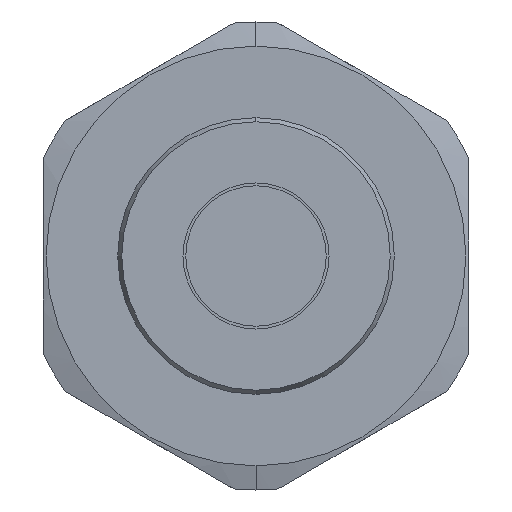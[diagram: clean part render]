
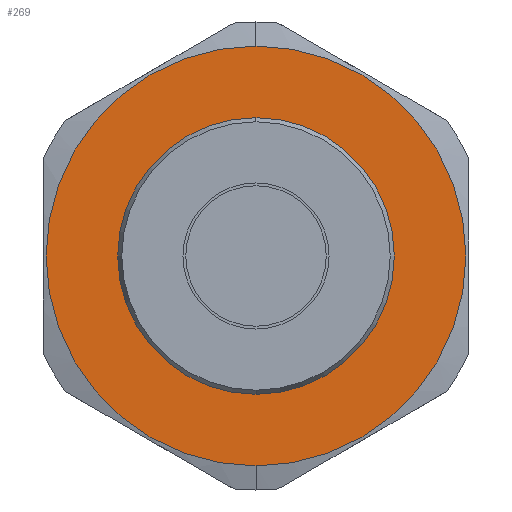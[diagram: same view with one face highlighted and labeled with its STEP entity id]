
A CAD part, front view. The second image highlights one B-rep face of the part: STEP entity #269.
In plain terms, the highlighted planar face has unit normal (0, -1, 0).
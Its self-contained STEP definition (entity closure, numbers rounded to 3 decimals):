
#38 = VERTEX_POINT ( 'NONE', #635 ) ;
#41 = VERTEX_POINT ( 'NONE', #693 ) ;
#44 = EDGE_CURVE ( 'NONE', #41, #38, #692, .T. ) ;
#53 = VERTEX_POINT ( 'NONE', #674 ) ;
#269 = ADVANCED_FACE ( 'NONE', ( #1073, #1072 ), #1129, .T. ) ;
#270 = ORIENTED_EDGE ( 'NONE', *, *, #2286, .T. ) ;
#271 = ORIENTED_EDGE ( 'NONE', *, *, #272, .T. ) ;
#272 = EDGE_CURVE ( 'NONE', #53, #2284, #1128, .T. ) ;
#273 = EDGE_LOOP ( 'NONE', ( #274, #275 ) ) ;
#274 = ORIENTED_EDGE ( 'NONE', *, *, #44, .F. ) ;
#275 = ORIENTED_EDGE ( 'NONE', *, *, #2365, .F. ) ;
#295 = EDGE_LOOP ( 'NONE', ( #270, #271 ) ) ;
#635 = CARTESIAN_POINT ( 'NONE',  ( 0., 15., -14.8 ) ) ;
#674 = CARTESIAN_POINT ( 'NONE',  ( 0., 15., -9.75 ) ) ;
#688 = DIRECTION ( 'NONE',  ( 0., 0., 1. ) ) ;
#689 = DIRECTION ( 'NONE',  ( 0., 1., 0. ) ) ;
#690 = CARTESIAN_POINT ( 'NONE',  ( 0., 15., 0. ) ) ;
#691 = AXIS2_PLACEMENT_3D ( 'NONE', #690, #689, #688 ) ;
#692 = CIRCLE ( 'NONE', #691, 14.8 ) ;
#693 = CARTESIAN_POINT ( 'NONE',  ( 0., 15., 14.8 ) ) ;
#1072 = FACE_OUTER_BOUND ( 'NONE', #273, .T. ) ;
#1073 = FACE_BOUND ( 'NONE', #295, .T. ) ;
#1120 = DIRECTION ( 'NONE',  ( 0., 0., 1. ) ) ;
#1121 = DIRECTION ( 'NONE',  ( 0., 1., 0. ) ) ;
#1122 = CARTESIAN_POINT ( 'NONE',  ( 0., 15., 0. ) ) ;
#1123 = AXIS2_PLACEMENT_3D ( 'NONE', #1122, #1121, #1120 ) ;
#1124 = DIRECTION ( 'NONE',  ( 0., 0., -1. ) ) ;
#1125 = DIRECTION ( 'NONE',  ( 0., -1., 0. ) ) ;
#1126 = CARTESIAN_POINT ( 'NONE',  ( 0., 15., 14.8 ) ) ;
#1127 = AXIS2_PLACEMENT_3D ( 'NONE', #1126, #1125, #1124 ) ;
#1128 = CIRCLE ( 'NONE', #1123, 9.75 ) ;
#1129 = PLANE ( 'NONE',  #1127 ) ;
#1651 = DIRECTION ( 'NONE',  ( 0., 0., 1. ) ) ;
#1652 = DIRECTION ( 'NONE',  ( 0., 1., 0. ) ) ;
#1653 = CARTESIAN_POINT ( 'NONE',  ( 0., 15., 0. ) ) ;
#1654 = AXIS2_PLACEMENT_3D ( 'NONE', #1653, #1652, #1651 ) ;
#1655 = CIRCLE ( 'NONE', #1654, 9.75 ) ;
#1659 = CARTESIAN_POINT ( 'NONE',  ( 0., 15., 9.75 ) ) ;
#1807 = CIRCLE ( 'NONE', #1848, 14.8 ) ;
#1845 = DIRECTION ( 'NONE',  ( 0., 0., 1. ) ) ;
#1846 = DIRECTION ( 'NONE',  ( 0., 1., 0. ) ) ;
#1847 = CARTESIAN_POINT ( 'NONE',  ( 0., 15., 0. ) ) ;
#1848 = AXIS2_PLACEMENT_3D ( 'NONE', #1847, #1846, #1845 ) ;
#2284 = VERTEX_POINT ( 'NONE', #1659 ) ;
#2286 = EDGE_CURVE ( 'NONE', #2284, #53, #1655, .T. ) ;
#2365 = EDGE_CURVE ( 'NONE', #38, #41, #1807, .T. ) ;
